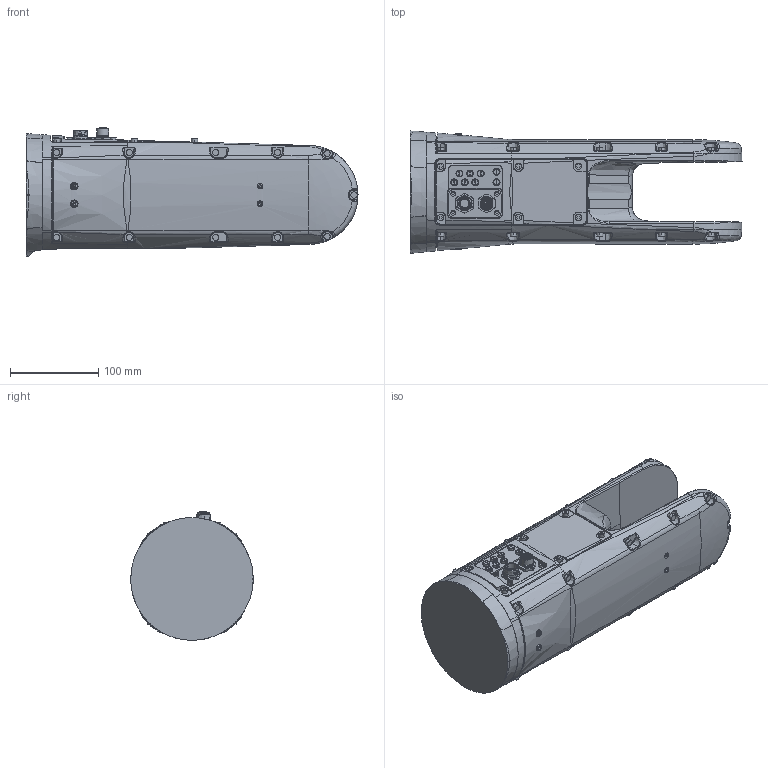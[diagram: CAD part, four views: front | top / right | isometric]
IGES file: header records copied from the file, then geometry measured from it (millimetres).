
Start section:  PTC IGES file: r_view_yr-n1-06vx7-c00.igs
Global section: file name: r_view_yr-n1-06vx7-c00.igs; native system: Creo Parametric by PTC Inc.; preprocessor: 2021072; author: mttm21; organization: Unknown; date: 20250919.181727; units: millimetre
Bounding box: 375.7 x 138.63 x 145.5 mm (x, y, z)
Volume: 3767192.9 mm3; surface area: 287874.6 mm2
Topology: 1 solids, 1 shells, 1758 faces, 4342 edges, 2680 vertices
Faces by surface type: bspline 1078, revolution 680
